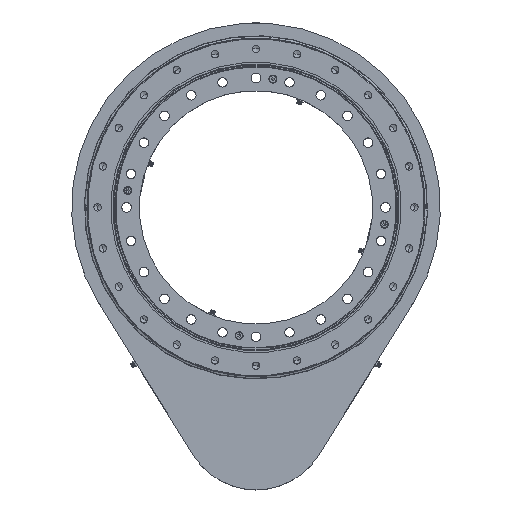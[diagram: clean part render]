
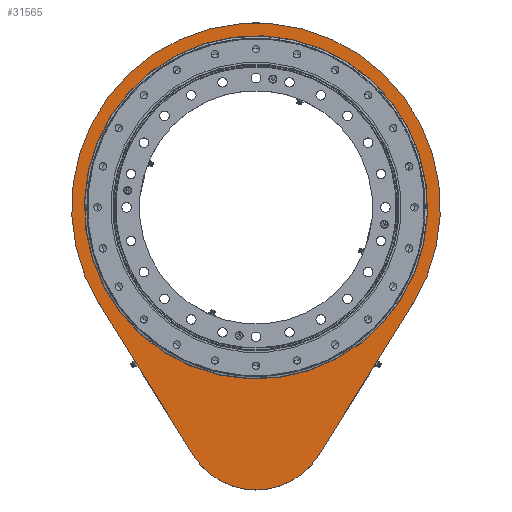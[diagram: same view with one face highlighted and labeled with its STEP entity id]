
A CAD part, top view. The second image highlights one B-rep face of the part: STEP entity #31565.
In plain terms, the highlighted planar face has unit normal (0, 0, 1).
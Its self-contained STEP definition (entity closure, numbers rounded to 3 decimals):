
#1363=DIRECTION('',(0.974,0.229,0.));
#1364=VECTOR('',#1363,2.833);
#1365=CARTESIAN_POINT('',(294.446,-183.598,102.));
#1366=LINE('',#1365,#1364);
#1370=DIRECTION('',(-0.226,0.974,0.));
#1371=VECTOR('',#1370,2.833);
#1372=CARTESIAN_POINT('',(295.086,-186.358,102.));
#1373=LINE('',#1372,#1371);
#1377=DIRECTION('',(0.529,0.849,0.));
#1378=VECTOR('',#1377,333.178);
#1379=CARTESIAN_POINT('',(118.797,-469.076,102.));
#1380=LINE('',#1379,#1378);
#1384=CARTESIAN_POINT('',(0.,-395.,102.));
#1385=DIRECTION('',(0.,0.,1.));
#1386=DIRECTION('',(-0.849,-0.529,0.));
#1387=AXIS2_PLACEMENT_3D('',#1384,#1385,#1386);
#1392=DIRECTION('',(0.529,-0.849,0.));
#1393=VECTOR('',#1392,333.178);
#1394=CARTESIAN_POINT('',(-295.086,-186.358,102.));
#1395=LINE('',#1394,#1393);
#1399=DIRECTION('',(-0.226,-0.974,0.));
#1400=VECTOR('',#1399,2.833);
#1401=CARTESIAN_POINT('',(-294.446,-183.598,102.));
#1402=LINE('',#1401,#1400);
#1406=DIRECTION('',(0.974,-0.229,0.));
#1407=VECTOR('',#1406,2.833);
#1408=CARTESIAN_POINT('',(-297.204,-182.95,102.));
#1409=LINE('',#1408,#1407);
#1413=CARTESIAN_POINT('',(0.,0.,102.));
#1414=DIRECTION('',(0.,0.,1.));
#1415=DIRECTION('',(0.852,-0.524,0.));
#1416=AXIS2_PLACEMENT_3D('',#1413,#1414,#1415);
#2732=CARTESIAN_POINT('',(0.,0.,102.));
#2733=DIRECTION('',(0.,0.,-1.));
#2734=DIRECTION('',(0.612,-0.791,0.));
#2735=AXIS2_PLACEMENT_3D('',#2732,#2733,#2734);
#2754=CARTESIAN_POINT('',(0.,0.,102.));
#2755=DIRECTION('',(0.,0.,1.));
#2756=DIRECTION('',(0.612,-0.791,0.));
#2757=AXIS2_PLACEMENT_3D('',#2754,#2755,#2756);
#27147=CARTESIAN_POINT('',(-297.204,-182.95,102.));
#27149=VERTEX_POINT('',#27147);
#27151=CARTESIAN_POINT('',(297.204,-182.95,102.));
#27153=VERTEX_POINT('',#27151);
#27165=CARTESIAN_POINT('',(-118.797,-469.076,102.));
#27166=CARTESIAN_POINT('',(118.797,-469.076,102.));
#27167=VERTEX_POINT('',#27165);
#27168=VERTEX_POINT('',#27166);
#27169=CARTESIAN_POINT('',(-295.086,-186.358,102.));
#27171=VERTEX_POINT('',#27169);
#27173=CARTESIAN_POINT('',(295.086,-186.358,102.));
#27175=VERTEX_POINT('',#27173);
#27178=CARTESIAN_POINT('',(294.446,-183.598,102.));
#27180=VERTEX_POINT('',#27178);
#27182=CARTESIAN_POINT('',(-294.446,-183.598,102.));
#27184=VERTEX_POINT('',#27182);
#28155=CARTESIAN_POINT('',(198.876,-257.047,102.));
#28157=VERTEX_POINT('',#28155);
#28161=CARTESIAN_POINT('',(-198.876,257.047,102.));
#28163=VERTEX_POINT('',#28161);
#31538=CARTESIAN_POINT('',(0.,0.,102.));
#31539=DIRECTION('',(0.,0.,1.));
#31540=DIRECTION('',(1.,0.,0.));
#31541=AXIS2_PLACEMENT_3D('',#31538,#31539,#31540);
#31542=PLANE('',#31541);
#31544=ORIENTED_EDGE('',*,*,#31543,.F.);
#31546=ORIENTED_EDGE('',*,*,#31545,.F.);
#31548=ORIENTED_EDGE('',*,*,#31547,.F.);
#31550=ORIENTED_EDGE('',*,*,#31549,.F.);
#31552=ORIENTED_EDGE('',*,*,#31551,.F.);
#31553=ORIENTED_EDGE('',*,*,#31523,.F.);
#31554=ORIENTED_EDGE('',*,*,#31505,.F.);
#31556=ORIENTED_EDGE('',*,*,#31555,.F.);
#31557=EDGE_LOOP('',(#31544,#31546,#31548,#31550,#31552,#31553,#31554,#31556));
#31558=FACE_OUTER_BOUND('',#31557,.F.);
#31560=ORIENTED_EDGE('',*,*,#31559,.F.);
#31562=ORIENTED_EDGE('',*,*,#31561,.T.);
#31563=EDGE_LOOP('',(#31560,#31562));
#31564=FACE_BOUND('',#31563,.F.);
#1388=CIRCLE('',#1387,140.);
#1417=CIRCLE('',#1416,349.);
#2736=CIRCLE('',#2735,325.);
#2758=CIRCLE('',#2757,325.);
#31505=EDGE_CURVE('',#27149,#27184,#1409,.T.);
#31523=EDGE_CURVE('',#27184,#27171,#1402,.T.);
#31543=EDGE_CURVE('',#27180,#27153,#1366,.T.);
#31545=EDGE_CURVE('',#27175,#27180,#1373,.T.);
#31547=EDGE_CURVE('',#27168,#27175,#1380,.T.);
#31549=EDGE_CURVE('',#27167,#27168,#1388,.T.);
#31551=EDGE_CURVE('',#27171,#27167,#1395,.T.);
#31555=EDGE_CURVE('',#27153,#27149,#1417,.T.);
#31559=EDGE_CURVE('',#28157,#28163,#2736,.T.);
#31561=EDGE_CURVE('',#28157,#28163,#2758,.T.);
#31565=ADVANCED_FACE('',(#31558,#31564),#31542,.T.);
